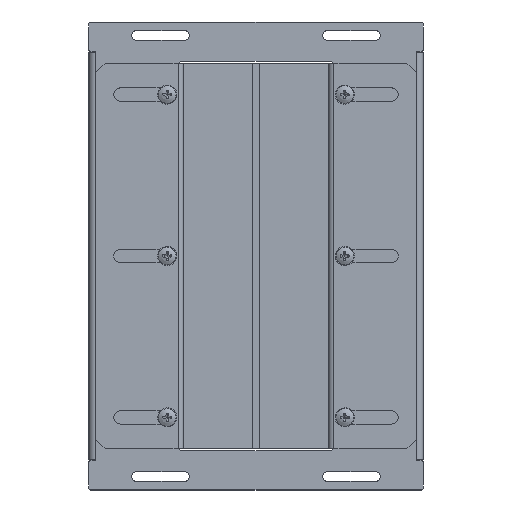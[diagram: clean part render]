
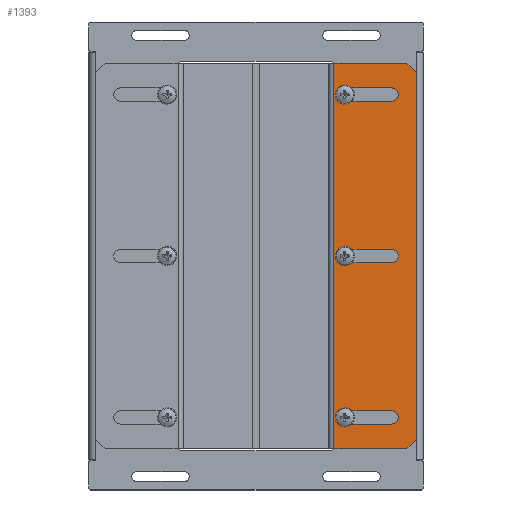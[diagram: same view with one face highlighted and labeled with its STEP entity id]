
A CAD part, top view. The second image highlights one B-rep face of the part: STEP entity #1393.
In plain terms, the highlighted planar face has unit normal (0, 0, 1).
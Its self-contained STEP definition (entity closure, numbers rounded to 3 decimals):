
#1393=ADVANCED_FACE('',(#5604,#5606,#5608,#5610),#5612,.T.);
#5604=FACE_BOUND('',#5605,.T.);
#5605=EDGE_LOOP('',(#6900,#6901,#6902,#6903,#6904,#6905));
#5606=FACE_BOUND('',#5607,.T.);
#5607=EDGE_LOOP('',(#6906,#6907,#6908,#6909));
#5608=FACE_BOUND('',#5609,.T.);
#5609=EDGE_LOOP('',(#6910,#6911,#6912,#6913));
#5610=FACE_BOUND('',#5611,.T.);
#5611=EDGE_LOOP('',(#6914,#6915,#6916,#6917));
#5612=PLANE('',#5613);
#5613=AXIS2_PLACEMENT_3D('',#5614,#5615,#5616);
#5614=CARTESIAN_POINT('',(0.,0.,1.5));
#5615=DIRECTION('',(0.,0.,1.));
#5616=DIRECTION('',(1.,0.,0.));
#6900=ORIENTED_EDGE('',*,*,#7584,.F.);
#6901=ORIENTED_EDGE('',*,*,#7585,.T.);
#6902=ORIENTED_EDGE('',*,*,#7586,.T.);
#6903=ORIENTED_EDGE('',*,*,#7587,.T.);
#6904=ORIENTED_EDGE('',*,*,#7588,.F.);
#6905=ORIENTED_EDGE('',*,*,#7589,.T.);
#6906=ORIENTED_EDGE('',*,*,#7590,.T.);
#6907=ORIENTED_EDGE('',*,*,#7591,.T.);
#6908=ORIENTED_EDGE('',*,*,#7592,.T.);
#6909=ORIENTED_EDGE('',*,*,#7593,.T.);
#6910=ORIENTED_EDGE('',*,*,#7594,.T.);
#6911=ORIENTED_EDGE('',*,*,#7595,.T.);
#6912=ORIENTED_EDGE('',*,*,#7596,.T.);
#6913=ORIENTED_EDGE('',*,*,#7597,.T.);
#6914=ORIENTED_EDGE('',*,*,#7598,.T.);
#6915=ORIENTED_EDGE('',*,*,#7599,.T.);
#6916=ORIENTED_EDGE('',*,*,#7600,.T.);
#6917=ORIENTED_EDGE('',*,*,#7601,.T.);
#7584=EDGE_CURVE('',#8554,#8555,#8556,.F.);
#7585=EDGE_CURVE('',#8554,#8557,#8558,.T.);
#7586=EDGE_CURVE('',#8557,#8559,#8560,.T.);
#7587=EDGE_CURVE('',#8559,#8561,#8562,.T.);
#7588=EDGE_CURVE('',#8563,#8561,#8564,.F.);
#7589=EDGE_CURVE('',#8563,#8555,#8565,.T.);
#7590=EDGE_CURVE('',#8566,#8567,#8568,.F.);
#7591=EDGE_CURVE('',#8567,#8569,#8570,.F.);
#7592=EDGE_CURVE('',#8569,#8571,#8572,.F.);
#7593=EDGE_CURVE('',#8571,#8566,#8573,.F.);
#7594=EDGE_CURVE('',#8574,#8575,#8576,.F.);
#7595=EDGE_CURVE('',#8575,#8577,#8578,.F.);
#7596=EDGE_CURVE('',#8577,#8579,#8580,.F.);
#7597=EDGE_CURVE('',#8579,#8574,#8581,.F.);
#7598=EDGE_CURVE('',#8582,#8583,#8584,.F.);
#7599=EDGE_CURVE('',#8583,#8585,#8586,.F.);
#7600=EDGE_CURVE('',#8585,#8587,#8588,.F.);
#7601=EDGE_CURVE('',#8587,#8582,#8589,.F.);
#8554=VERTEX_POINT('',#12482);
#8555=VERTEX_POINT('',#12483);
#8556=LINE('',#12484,#12485);
#8557=VERTEX_POINT('',#12487);
#8558=LINE('',#12488,#12489);
#8559=VERTEX_POINT('',#12491);
#8560=LINE('',#12492,#12493);
#8561=VERTEX_POINT('',#12495);
#8562=LINE('',#12496,#12497);
#8563=VERTEX_POINT('',#12499);
#8564=LINE('',#12500,#12501);
#8565=LINE('',#12503,#12504);
#8566=VERTEX_POINT('',#12506);
#8567=VERTEX_POINT('',#12507);
#8568=LINE('',#12508,#12509);
#8569=VERTEX_POINT('',#12511);
#8570=CIRCLE('',#12512,3.5);
#8571=VERTEX_POINT('',#12516);
#8572=LINE('',#12517,#12518);
#8573=CIRCLE('',#12520,3.5);
#8574=VERTEX_POINT('',#12524);
#8575=VERTEX_POINT('',#12525);
#8576=LINE('',#12526,#12527);
#8577=VERTEX_POINT('',#12529);
#8578=CIRCLE('',#12530,3.5);
#8579=VERTEX_POINT('',#12534);
#8580=LINE('',#12535,#12536);
#8581=CIRCLE('',#12538,3.5);
#8582=VERTEX_POINT('',#12542);
#8583=VERTEX_POINT('',#12543);
#8584=CIRCLE('',#12544,3.5);
#8585=VERTEX_POINT('',#12548);
#8586=LINE('',#12549,#12550);
#8587=VERTEX_POINT('',#12552);
#8588=CIRCLE('',#12553,3.5);
#8589=LINE('',#12557,#12558);
#12482=CARTESIAN_POINT('',(0.,41.,1.5));
#12483=CARTESIAN_POINT('',(5.,46.,1.5));
#12484=CARTESIAN_POINT('',(5.,46.,1.5));
#12485=VECTOR('',#12486,1.);
#12486=DIRECTION('',(-0.707,-0.707,0.));
#12487=CARTESIAN_POINT('',(0.,2.8,1.5));
#12488=CARTESIAN_POINT('',(0.,41.,1.5));
#12489=VECTOR('',#12490,1.);
#12490=DIRECTION('',(0.,-1.,0.));
#12491=CARTESIAN_POINT('',(202.,2.8,1.5));
#12492=CARTESIAN_POINT('',(0.,2.8,1.5));
#12493=VECTOR('',#12494,1.);
#12494=DIRECTION('',(1.,0.,0.));
#12495=CARTESIAN_POINT('',(202.,41.,1.5));
#12496=CARTESIAN_POINT('',(202.,2.8,1.5));
#12497=VECTOR('',#12498,1.);
#12498=DIRECTION('',(0.,1.,0.));
#12499=CARTESIAN_POINT('',(197.,46.,1.5));
#12500=CARTESIAN_POINT('',(202.,41.,1.5));
#12501=VECTOR('',#12502,1.);
#12502=DIRECTION('',(-0.707,0.707,0.));
#12503=CARTESIAN_POINT('',(197.,46.,1.5));
#12504=VECTOR('',#12505,1.);
#12505=DIRECTION('',(-1.,0.,0.));
#12506=CARTESIAN_POINT('',(182.,8.5,1.5));
#12507=CARTESIAN_POINT('',(182.,33.,1.5));
#12508=CARTESIAN_POINT('',(182.,33.,1.5));
#12509=VECTOR('',#12510,1.);
#12510=DIRECTION('',(0.,-1.,0.));
#12511=CARTESIAN_POINT('',(189.,33.,1.5));
#12512=AXIS2_PLACEMENT_3D('',#12513,#12514,#12515);
#12513=CARTESIAN_POINT('',(185.5,33.,1.5));
#12514=DIRECTION('',(0.,0.,1.));
#12515=DIRECTION('',(1.,0.,0.));
#12516=CARTESIAN_POINT('',(189.,8.5,1.5));
#12517=CARTESIAN_POINT('',(189.,8.5,1.5));
#12518=VECTOR('',#12519,1.);
#12519=DIRECTION('',(0.,1.,0.));
#12520=AXIS2_PLACEMENT_3D('',#12521,#12522,#12523);
#12521=CARTESIAN_POINT('',(185.5,8.5,1.5));
#12522=DIRECTION('',(0.,0.,1.));
#12523=DIRECTION('',(-1.,0.,0.));
#12524=CARTESIAN_POINT('',(20.,33.,1.5));
#12525=CARTESIAN_POINT('',(20.,8.5,1.5));
#12526=CARTESIAN_POINT('',(20.,8.5,1.5));
#12527=VECTOR('',#12528,1.);
#12528=DIRECTION('',(0.,1.,0.));
#12529=CARTESIAN_POINT('',(13.,8.5,1.5));
#12530=AXIS2_PLACEMENT_3D('',#12531,#12532,#12533);
#12531=CARTESIAN_POINT('',(16.5,8.5,1.5));
#12532=DIRECTION('',(0.,0.,1.));
#12533=DIRECTION('',(-1.,0.,0.));
#12534=CARTESIAN_POINT('',(13.,33.,1.5));
#12535=CARTESIAN_POINT('',(13.,33.,1.5));
#12536=VECTOR('',#12537,1.);
#12537=DIRECTION('',(0.,-1.,0.));
#12538=AXIS2_PLACEMENT_3D('',#12539,#12540,#12541);
#12539=CARTESIAN_POINT('',(16.5,33.,1.5));
#12540=DIRECTION('',(0.,0.,1.));
#12541=DIRECTION('',(1.,0.,0.));
#12542=CARTESIAN_POINT('',(97.5,33.,1.5));
#12543=CARTESIAN_POINT('',(104.5,33.,1.5));
#12544=AXIS2_PLACEMENT_3D('',#12545,#12546,#12547);
#12545=CARTESIAN_POINT('',(101.,33.,1.5));
#12546=DIRECTION('',(0.,0.,1.));
#12547=DIRECTION('',(1.,0.,0.));
#12548=CARTESIAN_POINT('',(104.5,8.5,1.5));
#12549=CARTESIAN_POINT('',(104.5,8.5,1.5));
#12550=VECTOR('',#12551,1.);
#12551=DIRECTION('',(0.,1.,0.));
#12552=CARTESIAN_POINT('',(97.5,8.5,1.5));
#12553=AXIS2_PLACEMENT_3D('',#12554,#12555,#12556);
#12554=CARTESIAN_POINT('',(101.,8.5,1.5));
#12555=DIRECTION('',(0.,0.,1.));
#12556=DIRECTION('',(-1.,0.,0.));
#12557=CARTESIAN_POINT('',(97.5,33.,1.5));
#12558=VECTOR('',#12559,1.);
#12559=DIRECTION('',(0.,-1.,0.));
